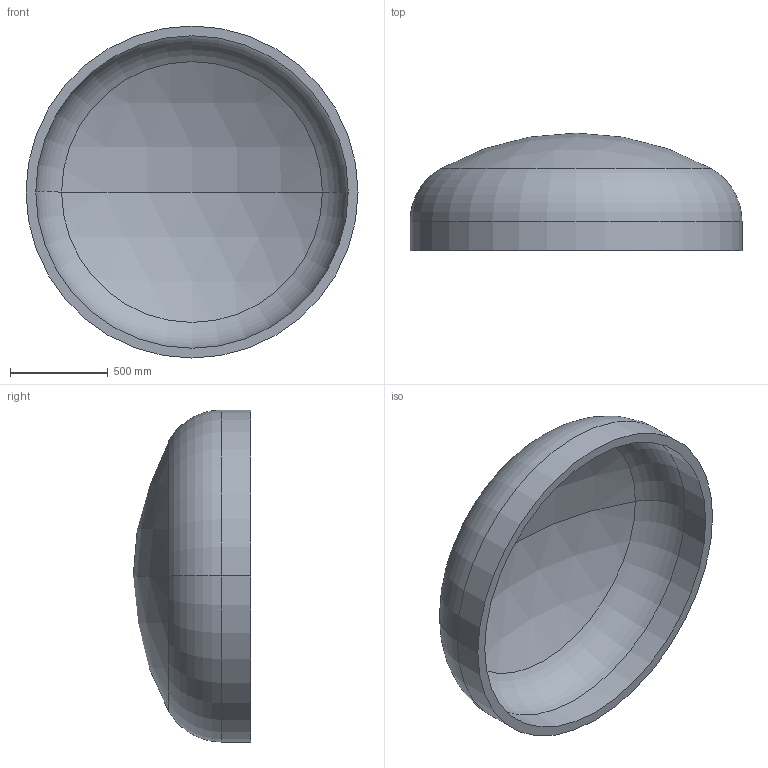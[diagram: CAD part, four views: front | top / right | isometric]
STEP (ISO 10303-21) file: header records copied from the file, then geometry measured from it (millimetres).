
FILE_DESCRIPTION (( 'STEP AP203' ), '1' );
FILE_NAME ('DIN 28013 Korbbogenform_-_Boden DIN 28013 - 1700 x 150 - I - s=50.step', '2016-07-01T11:53:09', ( '' ), ( '' ), 'SwSTEP 2.0', 'SolidWorks 2013', '' );
FILE_SCHEMA (( 'CONFIG_CONTROL_DESIGN' ));
Length unit declared in the file: millimetre
Products named in the file (1): DIN 28013 Korbbogenform_-_Boden DIN 28013 - 1700 x 150 - I - s=50
Bounding box: 1700 x 601.67 x 1700 mm (x, y, z)
Volume: 189922868.3 mm3; surface area: 7861330 mm2
Topology: 1 solids, 1 shells, 13 faces, 24 edges, 14 vertices
Faces by surface type: torus 4, cylinder 4, sphere 4, plane 1
Entity records: 407 total; most frequent: DIRECTION 72, CARTESIAN_POINT 52, ORIENTED_EDGE 48, AXIS2_PLACEMENT_3D 34, EDGE_CURVE 24, CIRCLE 20, EDGE_LOOP 14, VERTEX_POINT 14
